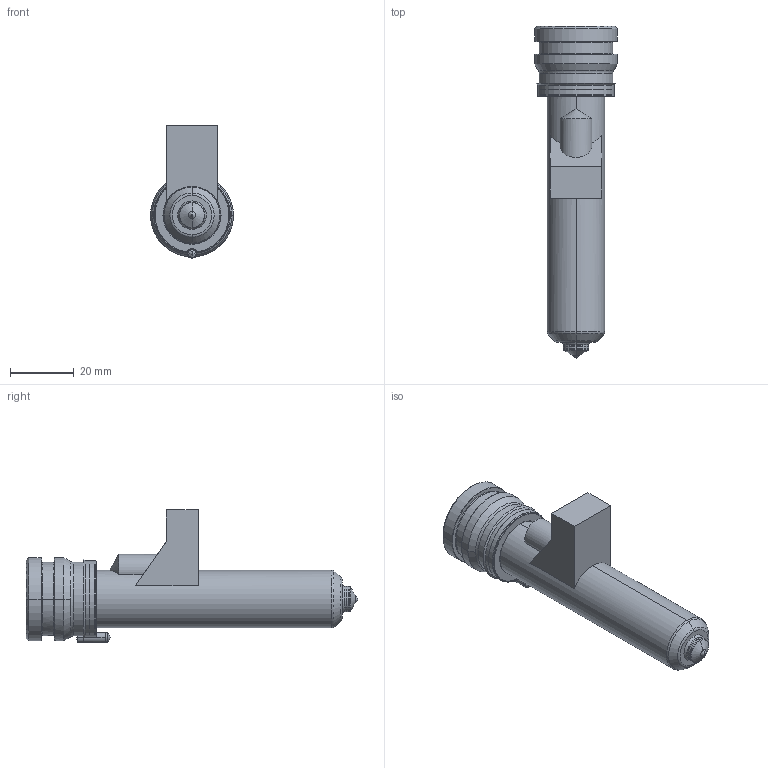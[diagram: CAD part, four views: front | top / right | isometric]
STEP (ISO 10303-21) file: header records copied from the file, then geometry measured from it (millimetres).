
FILE_DESCRIPTION((''),'2;1');
FILE_NAME('MPN-08-24-TS8-086-M','2026-02-05T13:24:23',('UPTIO'),('Thermoplay S.p.A.'),'CREO PARAMETRIC BY PTC INC, 2023494','CREO PARAMETRIC BY PTC INC, 2023494','');
FILE_SCHEMA(('CONFIG_CONTROL_DESIGN','SHAPE_APPEARANCE_LAYERS_GROUPS'));
Length unit declared in the file: millimetre
Products named in the file (1): MPN-08-24-TS8-086-M
Bounding box: 26 x 104 x 41.5 mm (x, y, z)
Volume: 21147.8 mm3; surface area: 27353 mm2
Topology: 2 solids, 5 shells, 532 faces, 1371 edges, 843 vertices
Faces by surface type: cylinder 172, plane 146, bspline 77, torus 62, cone 58, sphere 11, extrusion 6
Entity records: 28436 total; most frequent: CARTESIAN_POINT 12797, ORIENTED_EDGE 2720, DIRECTION 2456, EDGE_CURVE 1360, AXIS2_PLACEMENT_3D 960, VERTEX_POINT 843, EDGE_LOOP 561, VECTOR 536
